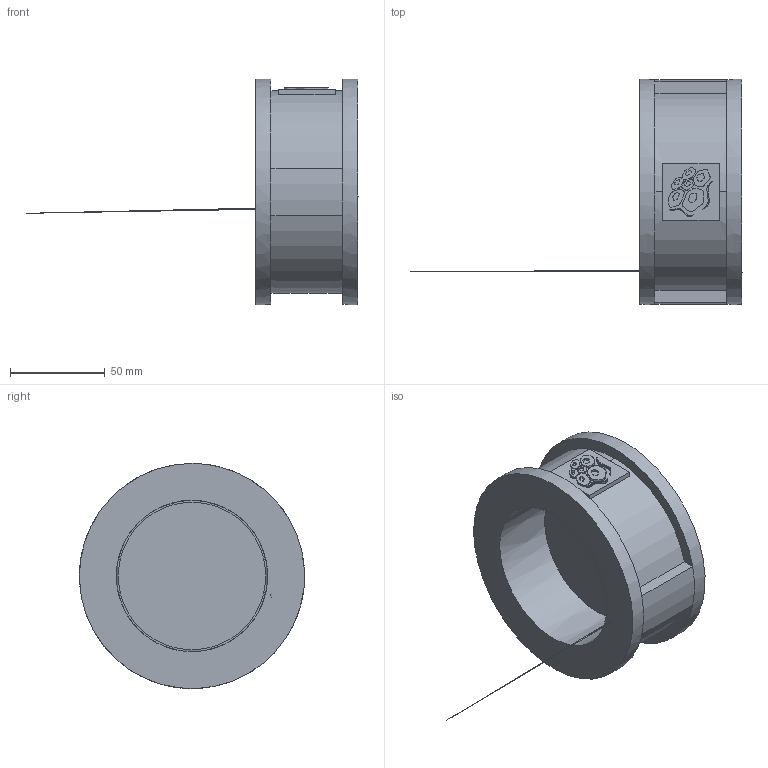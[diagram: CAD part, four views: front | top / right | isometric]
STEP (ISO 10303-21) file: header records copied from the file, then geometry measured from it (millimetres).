
FILE_DESCRIPTION(('STEP AP203'), '1');
FILE_NAME('3D_400_065_16', '', ('UNSPECIFIED'), ('UNSPECIFIED'), 'C3D Converter', 'C3D Toolkit', '');
FILE_SCHEMA(('CONFIG_CONTROL_DESIGN'));
Length unit declared in the file: millimetre
Bounding box: 175.42 x 119 x 119 mm (x, y, z)
Volume: 305311.6 mm3; surface area: 66381.2 mm2
Topology: 1 solids, 2 shells, 875 faces, 2555 edges, 1698 vertices
Faces by surface type: plane 845, bspline 22, cylinder 8
Full cylindrical faces by diameter (mm): 7.467 x1, 13.467 x1, 15.2 x1, 70 x1, 76 x1, 78 x1
Entity records: 40546 total; most frequent: CARTESIAN_POINT 10559, ORIENTED_EDGE 5088, DIRECTION 4203, EDGE_CURVE 2544, LINE 2459, VECTOR 2459, VERTEX_POINT 1698, EDGE_LOOP 904
